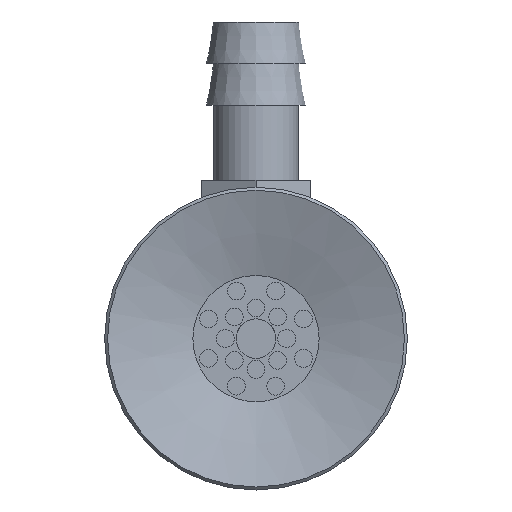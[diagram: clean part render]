
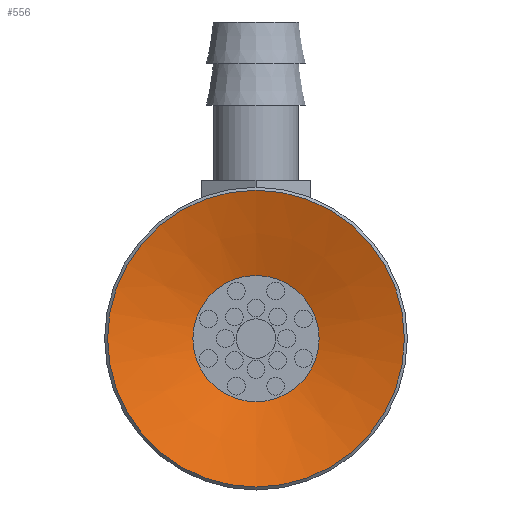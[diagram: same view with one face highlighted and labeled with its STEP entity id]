
A CAD part, front view. The second image highlights one B-rep face of the part: STEP entity #556.
In plain terms, the highlighted conical face has half-angle 72 degrees and reference radius 7.5 mm.
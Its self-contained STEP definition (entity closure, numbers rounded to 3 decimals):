
#556=ADVANCED_FACE('',(#862,#863),#864,.F.);
#862=FACE_BOUND('',#1272,.T.);
#863=FACE_OUTER_BOUND('',#1273,.T.);
#864=CONICAL_SURFACE('',#1274,7.5,1.257);
#1272=EDGE_LOOP('',(#2075));
#1273=EDGE_LOOP('',(#2076));
#1274=AXIS2_PLACEMENT_3D('',#2077,#2078,#2079);
#2075=ORIENTED_EDGE('',*,*,#2548,.T.);
#2076=ORIENTED_EDGE('',*,*,#2549,.F.);
#2077=CARTESIAN_POINT('',(0.0,0.,0.));
#2078=DIRECTION('',(0.0,0.,-1.0));
#2079=DIRECTION('',(0.0,1.0,0.));
#2548=EDGE_CURVE('',#2913,#2913,#2914,.T.);
#2549=EDGE_CURVE('',#2915,#2915,#2916,.T.);
#2913=VERTEX_POINT('',#3719);
#2914=CIRCLE('',#3720,3.191);
#2915=VERTEX_POINT('',#3721);
#2916=CIRCLE('',#3722,7.5);
#3719=CARTESIAN_POINT('',(0.0,-3.191,1.4));
#3720=AXIS2_PLACEMENT_3D('',#4141,#4142,#4143);
#3721=CARTESIAN_POINT('',(0.0,-7.5,0.));
#3722=AXIS2_PLACEMENT_3D('',#4144,#4145,#4146);
#4141=CARTESIAN_POINT('',(0.0,0.,1.4));
#4142=DIRECTION('',(0.0,0.,1.0));
#4143=DIRECTION('',(0.0,-1.0,0.));
#4144=CARTESIAN_POINT('',(0.0,0.,0.));
#4145=DIRECTION('',(0.0,0.,1.0));
#4146=DIRECTION('',(0.0,-1.0,0.));
